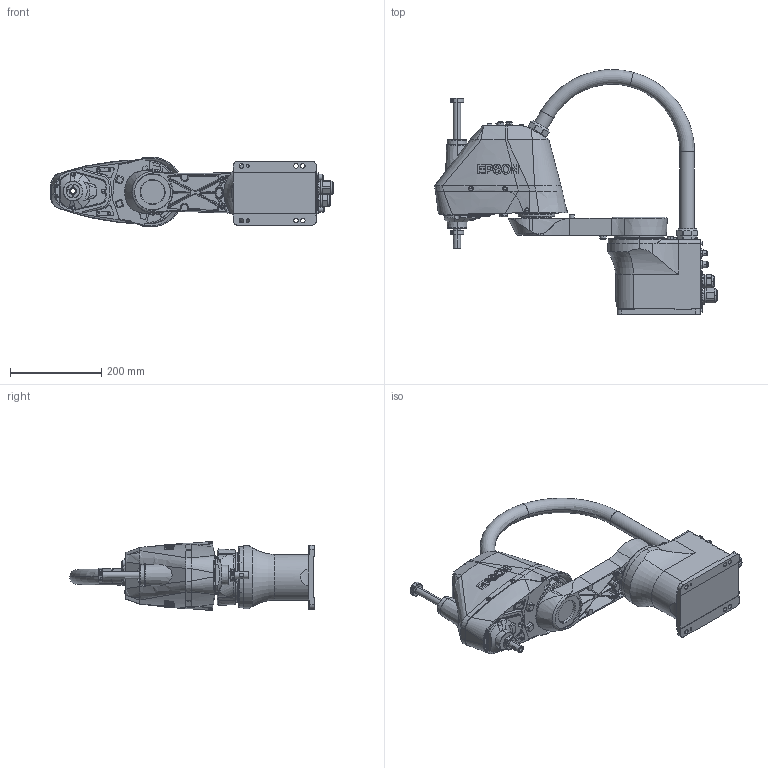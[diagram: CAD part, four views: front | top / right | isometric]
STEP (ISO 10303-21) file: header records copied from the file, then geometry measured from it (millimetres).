
FILE_DESCRIPTION (( 'STEP AP214' ), '1' );
FILE_NAME ('LS4-x401S.STEP', '2026-07-16T00:07:43', ( '' ), ( '' ), 'SwSTEP 2.0', 'SolidWorks 2020', '' );
FILE_SCHEMA (( 'AUTOMOTIVE_DESIGN' ));
Length unit declared in the file: millimetre
Products named in the file (5): LS4-C401S_Z_AXIS; LS4-C401S_BOX; LS4-x401S; LS4-C401S_ARM; LS4-C401S_HOUSING
Assembly tree (4 placements, depth 2):
  LS4-x401S
    LS4-C401S_BOX
    LS4-C401S_ARM
    LS4-C401S_HOUSING
    LS4-C401S_Z_AXIS
Bounding box: 620.99 x 537.19 x 152.17 mm (x, y, z)
Volume: 4117468.6 mm3; surface area: 677704.9 mm2
Topology: 3 solids, 6 shells, 2816 faces, 7187 edges, 4636 vertices
Faces by surface type: cylinder 1096, plane 992, cone 383, torus 225, bspline 80, sphere 40
Entity records: 120464 total; most frequent: CARTESIAN_POINT 47507, ORIENTED_EDGE 14306, DIRECTION 10090, EDGE_CURVE 7157, VERTEX_POINT 4636, AXIS2_PLACEMENT_3D 4317, B_SPLINE_CURVE_WITH_KNOTS 4128, EDGE_LOOP 3129
